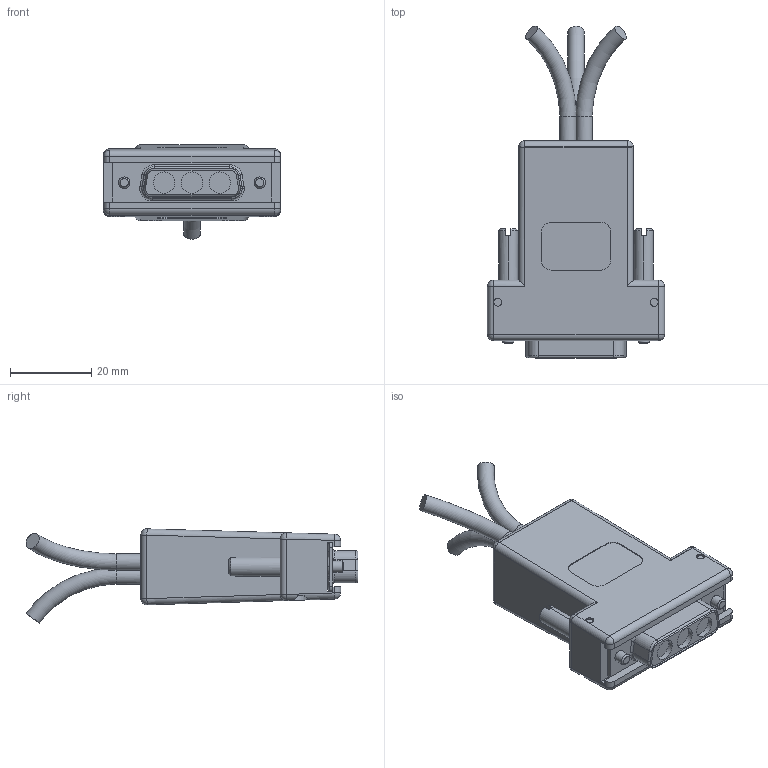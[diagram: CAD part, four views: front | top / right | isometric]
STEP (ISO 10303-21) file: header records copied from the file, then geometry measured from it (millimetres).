
FILE_DESCRIPTION(/* description */ ('Alibre Inc.'),/* implementation_level */ '2;1');
FILE_NAME(/* name */ 'export0',/* time_stamp */ '2015-05-04T09:18:23-07:00',/* author */ (''),/* organization */ (''),/* preprocessor_version */ 'ST-DEVELOPER v14',/* originating_system */ 'Alibre',/* authorisation */ '');
FILE_SCHEMA (('CONFIG_CONTROL_DESIGN'));
Length unit declared in the file: centimetre
Products named in the file (1): ID_1
Bounding box: 43.56 x 81.62 x 23.16 mm (x, y, z)
Volume: 29015.5 mm3; surface area: 8879.1 mm2
Topology: 1 solids, 1 shells, 321 faces, 838 edges, 528 vertices
Faces by surface type: plane 160, cylinder 109, torus 22, sphere 16, cone 12, bspline 2
Full cylindrical faces by diameter (mm): 2.819 x2, 3.048 x2
Entity records: 10376 total; most frequent: CARTESIAN_POINT 2684, ORIENTED_EDGE 1634, DIRECTION 1429, EDGE_CURVE 817, AXIS2_PLACEMENT_3D 561, VERTEX_POINT 538, VECTOR 483, LINE 483
